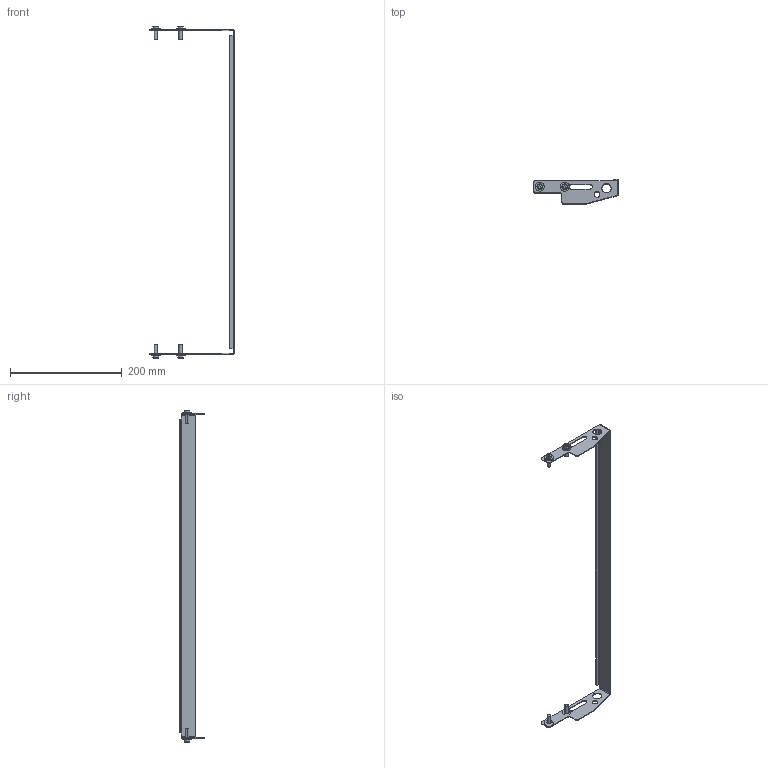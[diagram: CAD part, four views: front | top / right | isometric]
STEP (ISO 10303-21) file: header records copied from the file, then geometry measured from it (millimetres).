
FILE_DESCRIPTION((''),'2;1');
FILE_NAME('207218-20_ASM','2020-02-19T',('james.horst'),(''),'PRO/ENGINEER BY PARAMETRIC TECHNOLOGY CORPORATION, 2012420','PRO/ENGINEER BY PARAMETRIC TECHNOLOGY CORPORATION, 2012420','');
FILE_SCHEMA(('CONFIG_CONTROL_DESIGN'));
Length unit declared in the file: inch
Products named in the file (5): 207215-22; 605279P; 950620M; 207218-16_ASM_1_ASM; 207218-20_ASM
Assembly tree (10 placements, depth 3):
  207218-20_ASM
    207218-16_ASM_1_ASM
      207215-22
      605279P  x4
      950620M  x4
Bounding box: 151.79 x 43.71 x 593.5 mm (x, y, z)
Volume: 39518 mm3; surface area: 63969.7 mm2
Topology: 9 solids, 9 shells, 187 faces, 445 edges, 284 vertices
Faces by surface type: plane 94, cylinder 77, cone 16
Entity records: 3762 total; most frequent: DIRECTION 685, CARTESIAN_POINT 622, ORIENTED_EDGE 590, EDGE_CURVE 295, AXIS2_PLACEMENT_3D 251, VERTEX_POINT 188, VECTOR 183, LINE 183
